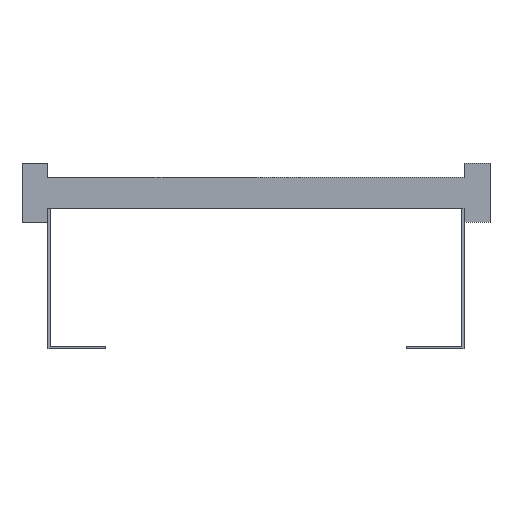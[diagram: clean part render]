
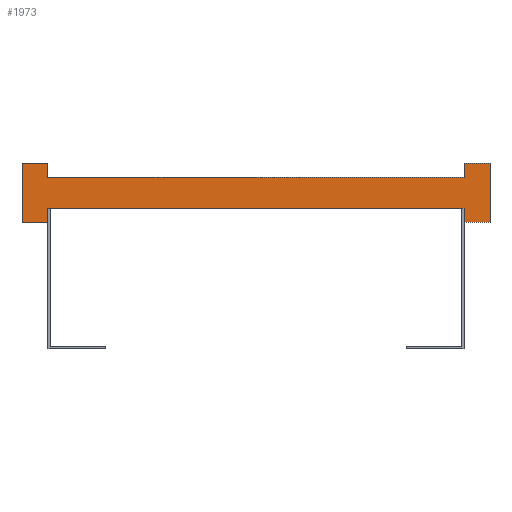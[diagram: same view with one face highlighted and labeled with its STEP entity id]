
A CAD part, front view. The second image highlights one B-rep face of the part: STEP entity #1973.
In plain terms, the highlighted planar face has unit normal (0, -1, 0).
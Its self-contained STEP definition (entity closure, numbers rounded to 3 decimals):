
#661=DIRECTION('',(0.,0.,1.));
#662=VECTOR('',#661,13.5);
#663=CARTESIAN_POINT('',(200.,0.,-28.5));
#664=LINE('',#663,#662);
#665=DIRECTION('',(0.,0.,-1.));
#666=VECTOR('',#665,13.5);
#667=CARTESIAN_POINT('',(-200.,0.,-15.));
#668=LINE('',#667,#666);
#669=DIRECTION('',(-1.,0.,0.));
#670=VECTOR('',#669,25.);
#671=CARTESIAN_POINT('',(-200.,0.,-28.5));
#672=LINE('',#671,#670);
#673=DIRECTION('',(0.,0.,1.));
#674=VECTOR('',#673,57.);
#675=CARTESIAN_POINT('',(-225.,0.,-28.5));
#676=LINE('',#675,#674);
#677=DIRECTION('',(1.,0.,0.));
#678=VECTOR('',#677,25.);
#679=CARTESIAN_POINT('',(-225.,0.,28.5));
#680=LINE('',#679,#678);
#681=DIRECTION('',(0.,0.,-1.));
#682=VECTOR('',#681,13.5);
#683=CARTESIAN_POINT('',(-200.,0.,28.5));
#684=LINE('',#683,#682);
#685=DIRECTION('',(0.,0.,1.));
#686=VECTOR('',#685,13.5);
#687=CARTESIAN_POINT('',(200.,0.,15.));
#688=LINE('',#687,#686);
#689=DIRECTION('',(1.,0.,0.));
#690=VECTOR('',#689,25.);
#691=CARTESIAN_POINT('',(200.,0.,28.5));
#692=LINE('',#691,#690);
#693=DIRECTION('',(0.,0.,-1.));
#694=VECTOR('',#693,57.);
#695=CARTESIAN_POINT('',(225.,0.,28.5));
#696=LINE('',#695,#694);
#697=DIRECTION('',(-1.,0.,0.));
#698=VECTOR('',#697,25.);
#699=CARTESIAN_POINT('',(225.,0.,-28.5));
#700=LINE('',#699,#698);
#701=DIRECTION('',(1.,0.,0.));
#702=VECTOR('',#701,400.);
#703=CARTESIAN_POINT('',(-200.,0.,-15.));
#704=LINE('',#703,#702);
#713=DIRECTION('',(1.,0.,0.));
#714=VECTOR('',#713,400.);
#715=CARTESIAN_POINT('',(-200.,0.,15.));
#716=LINE('',#715,#714);
#929=CARTESIAN_POINT('',(-225.,0.,28.5));
#930=CARTESIAN_POINT('',(-200.,0.,28.5));
#931=VERTEX_POINT('',#929);
#932=VERTEX_POINT('',#930);
#933=CARTESIAN_POINT('',(-200.,0.,-28.5));
#934=CARTESIAN_POINT('',(-225.,0.,-28.5));
#935=VERTEX_POINT('',#933);
#936=VERTEX_POINT('',#934);
#937=CARTESIAN_POINT('',(225.,0.,28.5));
#938=CARTESIAN_POINT('',(225.,0.,-28.5));
#939=VERTEX_POINT('',#937);
#940=VERTEX_POINT('',#938);
#941=CARTESIAN_POINT('',(200.,0.,-28.5));
#942=VERTEX_POINT('',#941);
#943=CARTESIAN_POINT('',(200.,0.,28.5));
#944=VERTEX_POINT('',#943);
#945=CARTESIAN_POINT('',(-200.,0.,-15.));
#947=VERTEX_POINT('',#945);
#949=CARTESIAN_POINT('',(-200.,0.,15.));
#951=VERTEX_POINT('',#949);
#953=CARTESIAN_POINT('',(200.,0.,-15.));
#955=VERTEX_POINT('',#953);
#957=CARTESIAN_POINT('',(200.,0.,15.));
#959=VERTEX_POINT('',#957);
#1948=CARTESIAN_POINT('',(0.,0.,0.));
#1949=DIRECTION('',(0.,1.,0.));
#1950=DIRECTION('',(1.,0.,0.));
#1951=AXIS2_PLACEMENT_3D('',#1948,#1949,#1950);
#1952=PLANE('',#1951);
#1953=ORIENTED_EDGE('',*,*,#1410,.T.);
#1955=ORIENTED_EDGE('',*,*,#1954,.F.);
#1956=ORIENTED_EDGE('',*,*,#1529,.T.);
#1957=ORIENTED_EDGE('',*,*,#1895,.T.);
#1959=ORIENTED_EDGE('',*,*,#1958,.T.);
#1960=ORIENTED_EDGE('',*,*,#1941,.T.);
#1961=ORIENTED_EDGE('',*,*,#1537,.T.);
#1963=ORIENTED_EDGE('',*,*,#1962,.T.);
#1964=ORIENTED_EDGE('',*,*,#1402,.T.);
#1966=ORIENTED_EDGE('',*,*,#1965,.T.);
#1968=ORIENTED_EDGE('',*,*,#1967,.T.);
#1970=ORIENTED_EDGE('',*,*,#1969,.T.);
#1971=EDGE_LOOP('',(#1953,#1955,#1956,#1957,#1959,#1960,#1961,#1963,#1964,#1966,
#1968,#1970));
#1972=FACE_OUTER_BOUND('',#1971,.F.);
#1402=EDGE_CURVE('',#959,#944,#688,.T.);
#1410=EDGE_CURVE('',#942,#955,#664,.T.);
#1529=EDGE_CURVE('',#947,#935,#668,.T.);
#1537=EDGE_CURVE('',#932,#951,#684,.T.);
#1895=EDGE_CURVE('',#935,#936,#672,.T.);
#1941=EDGE_CURVE('',#931,#932,#680,.T.);
#1954=EDGE_CURVE('',#947,#955,#704,.T.);
#1958=EDGE_CURVE('',#936,#931,#676,.T.);
#1962=EDGE_CURVE('',#951,#959,#716,.T.);
#1965=EDGE_CURVE('',#944,#939,#692,.T.);
#1967=EDGE_CURVE('',#939,#940,#696,.T.);
#1969=EDGE_CURVE('',#940,#942,#700,.T.);
#1973=ADVANCED_FACE('',(#1972),#1952,.F.);
